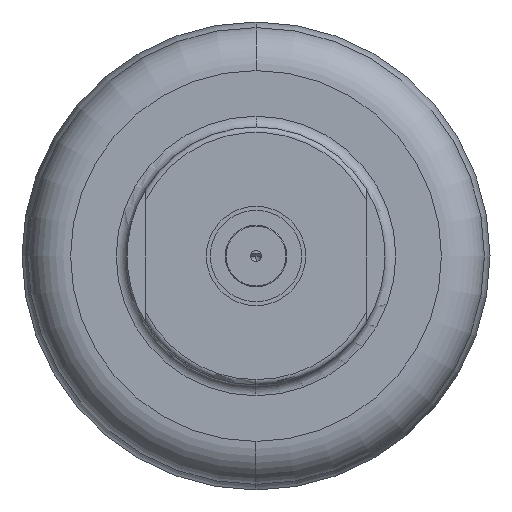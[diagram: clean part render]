
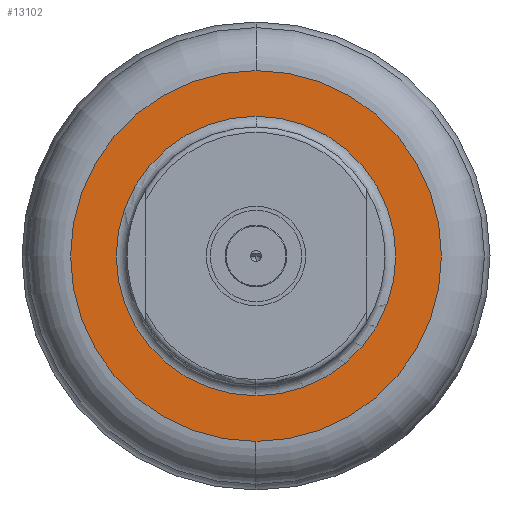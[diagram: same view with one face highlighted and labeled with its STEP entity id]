
A CAD part, front view. The second image highlights one B-rep face of the part: STEP entity #13102.
In plain terms, the highlighted planar face has unit normal (0, -1, 0).
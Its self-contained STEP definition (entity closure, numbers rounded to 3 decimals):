
#449 = ORIENTED_EDGE ( 'NONE', *, *, #4644, .T. ) ;
#1151 = DIRECTION ( 'NONE',  ( 0., -1., 0. ) ) ;
#1839 = CARTESIAN_POINT ( 'NONE',  ( 21.956, -34.098, 61.797 ) ) ;
#2571 = ORIENTED_EDGE ( 'NONE', *, *, #12253, .T. ) ;
#2618 = EDGE_LOOP ( 'NONE', ( #5847, #16419 ) ) ;
#2772 = CARTESIAN_POINT ( 'NONE',  ( 21.956, -34.098, 87.797 ) ) ;
#2820 = AXIS2_PLACEMENT_3D ( 'NONE', #2772, #1151, #17713 ) ;
#3933 = VERTEX_POINT ( 'NONE', #6617 ) ;
#4068 = VERTEX_POINT ( 'NONE', #7344 ) ;
#4559 = DIRECTION ( 'NONE',  ( 0., 1., 0. ) ) ;
#4644 = EDGE_CURVE ( 'NONE', #4068, #3933, #5904, .T. ) ;
#5831 = AXIS2_PLACEMENT_3D ( 'NONE', #13388, #17685, #16313 ) ;
#5847 = ORIENTED_EDGE ( 'NONE', *, *, #17347, .F. ) ;
#5904 = CIRCLE ( 'NONE', #6465, 34.5 ) ;
#6465 = AXIS2_PLACEMENT_3D ( 'NONE', #7839, #17746, #16016 ) ;
#6617 = CARTESIAN_POINT ( 'NONE',  ( 21.956, -34.098, 53.297 ) ) ;
#6820 = DIRECTION ( 'NONE',  ( 0., 0., -1. ) ) ;
#7344 = CARTESIAN_POINT ( 'NONE',  ( 21.956, -34.098, 122.297 ) ) ;
#7839 = CARTESIAN_POINT ( 'NONE',  ( 21.956, -34.098, 87.797 ) ) ;
#8089 = DIRECTION ( 'NONE',  ( 0., -1., 0. ) ) ;
#9801 = FACE_BOUND ( 'NONE', #2618, .T. ) ;
#10167 = EDGE_CURVE ( 'NONE', #15944, #14858, #11042, .T. ) ;
#10374 = AXIS2_PLACEMENT_3D ( 'NONE', #16981, #4559, #13990 ) ;
#10393 = EDGE_LOOP ( 'NONE', ( #2571, #449 ) ) ;
#10669 = CARTESIAN_POINT ( 'NONE',  ( 21.956, -34.098, 113.797 ) ) ;
#11042 = CIRCLE ( 'NONE', #5831, 26. ) ;
#11457 = PLANE ( 'NONE',  #10374 ) ;
#11487 = CIRCLE ( 'NONE', #2820, 26. ) ;
#12253 = EDGE_CURVE ( 'NONE', #3933, #4068, #15010, .T. ) ;
#12615 = FACE_OUTER_BOUND ( 'NONE', #10393, .T. ) ;
#13102 = ADVANCED_FACE ( 'NONE', ( #9801, #12615 ), #11457, .F. ) ;
#13388 = CARTESIAN_POINT ( 'NONE',  ( 21.956, -34.098, 87.797 ) ) ;
#13990 = DIRECTION ( 'NONE',  ( 1., 0., 0. ) ) ;
#14858 = VERTEX_POINT ( 'NONE', #1839 ) ;
#15010 = CIRCLE ( 'NONE', #17634, 34.5 ) ;
#15944 = VERTEX_POINT ( 'NONE', #10669 ) ;
#16016 = DIRECTION ( 'NONE',  ( 0., 0., -1. ) ) ;
#16313 = DIRECTION ( 'NONE',  ( 0., 0., -1. ) ) ;
#16358 = CARTESIAN_POINT ( 'NONE',  ( 21.956, -34.098, 87.797 ) ) ;
#16419 = ORIENTED_EDGE ( 'NONE', *, *, #10167, .F. ) ;
#16981 = CARTESIAN_POINT ( 'NONE',  ( -4.044, -34.098, 87.797 ) ) ;
#17347 = EDGE_CURVE ( 'NONE', #14858, #15944, #11487, .T. ) ;
#17634 = AXIS2_PLACEMENT_3D ( 'NONE', #16358, #8089, #6820 ) ;
#17685 = DIRECTION ( 'NONE',  ( 0., -1., 0. ) ) ;
#17713 = DIRECTION ( 'NONE',  ( 0., 0., -1. ) ) ;
#17746 = DIRECTION ( 'NONE',  ( 0., -1., 0. ) ) ;
